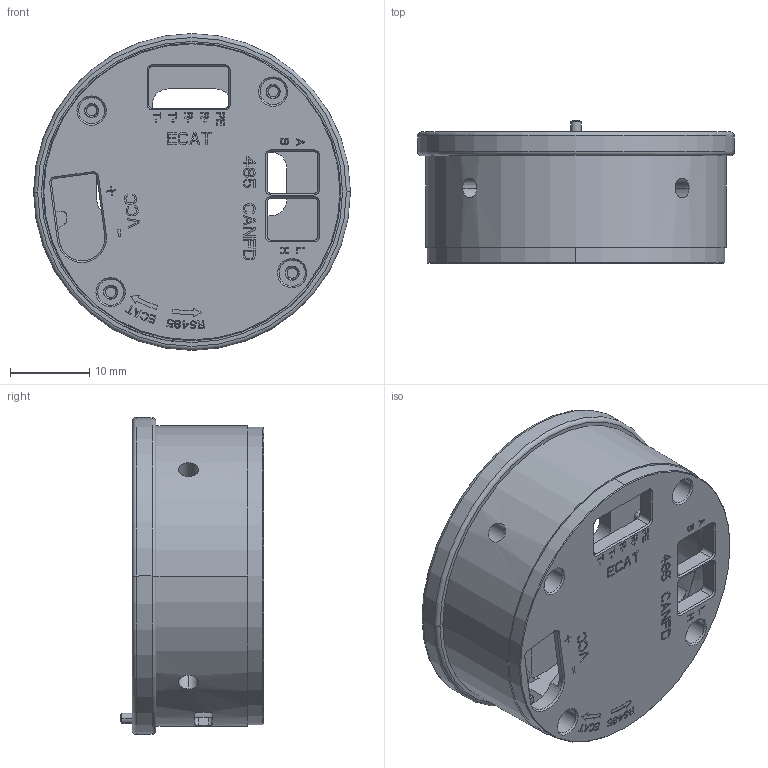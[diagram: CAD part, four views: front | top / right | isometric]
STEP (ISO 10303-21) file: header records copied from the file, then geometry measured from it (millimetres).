
FILE_DESCRIPTION((''),'2;1');
FILE_NAME('02-MD-WRIST-ROBOT-E_ASM','2026-06-04T16:43:45',('76495'),(''),'CREO PARAMETRIC BY PTC INC, 2022284','CREO PARAMETRIC BY PTC INC, 2022284','');
FILE_SCHEMA(('CONFIG_CONTROL_DESIGN'));
Length unit declared in the file: millimetre
Products named in the file (3): 00-WRIST-FR-ROBOT; 00-WRIST-BK-ROBOT; 02-MD-WRIST-ROBOT-E_ASM
Assembly tree (2 placements, depth 2):
  02-MD-WRIST-ROBOT-E_ASM
    00-WRIST-FR-ROBOT
    00-WRIST-BK-ROBOT
Bounding box: 40 x 18.1 x 40 mm (x, y, z)
Volume: 5976.4 mm3; surface area: 8349 mm2
Topology: 2 solids, 2 shells, 1373 faces, 3748 edges, 2459 vertices
Faces by surface type: plane 1048, cylinder 223, cone 98, torus 4
Entity records: 43202 total; most frequent: CARTESIAN_POINT 7836, ORIENTED_EDGE 7496, DIRECTION 7038, EDGE_CURVE 3748, VECTOR 3140, LINE 3140, VERTEX_POINT 2459, AXIS2_PLACEMENT_3D 1949
